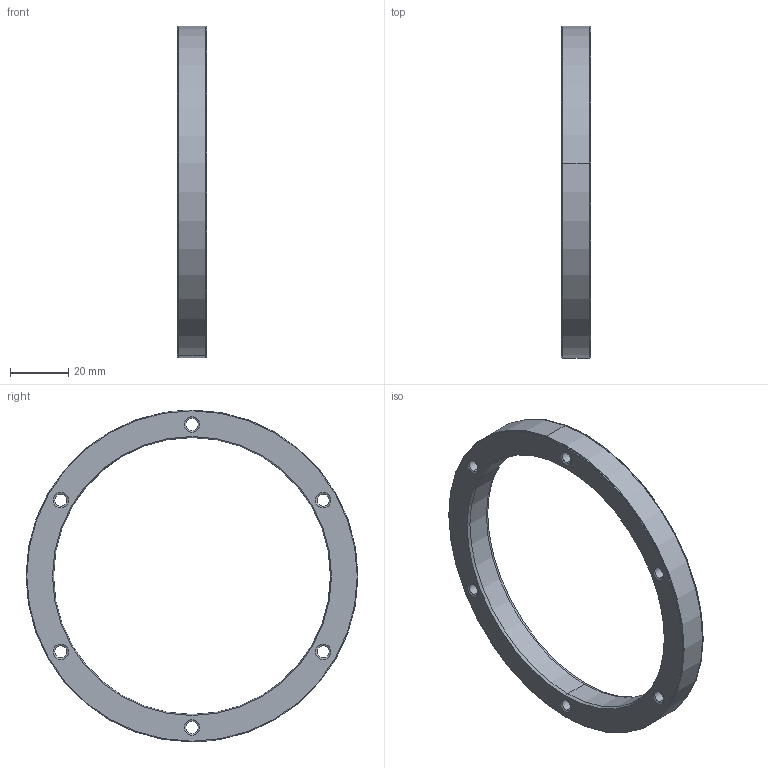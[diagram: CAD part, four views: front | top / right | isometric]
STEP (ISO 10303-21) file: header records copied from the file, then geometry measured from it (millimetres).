
FILE_DESCRIPTION (( 'STEP AP214' ), '1' );
FILE_NAME ('MR114U095.STEP', '2021-09-21T13:46:04', ( '' ), ( '' ), 'SwSTEP 2.0', 'SolidWorks 2020', '' );
FILE_SCHEMA (( 'AUTOMOTIVE_DESIGN' ));
Length unit declared in the file: millimetre
Products named in the file (1): MR114U095
Bounding box: 10 x 113.95 x 113.95 mm (x, y, z)
Volume: 30108.8 mm3; surface area: 13147.5 mm2
Topology: 1 solids, 1 shells, 462 faces, 1217 edges, 802 vertices
Faces by surface type: plane 251, bspline 147, cylinder 32, cone 28, torus 4
Entity records: 26047 total; most frequent: CARTESIAN_POINT 10437, ORIENTED_EDGE 2434, DIRECTION 1659, EDGE_CURVE 1217, LINE 819, VECTOR 819, VERTEX_POINT 802, EDGE_LOOP 521
